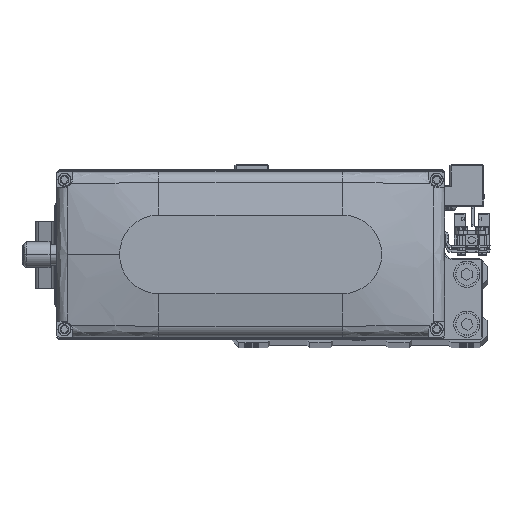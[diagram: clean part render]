
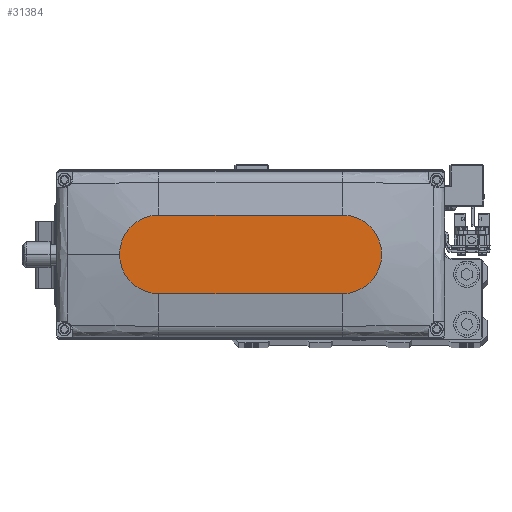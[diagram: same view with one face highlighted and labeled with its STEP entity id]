
A CAD part, top view. The second image highlights one B-rep face of the part: STEP entity #31384.
In plain terms, the highlighted planar face has unit normal (0, 0, 1).
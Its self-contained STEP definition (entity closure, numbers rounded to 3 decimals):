
#31 = CARTESIAN_POINT ( 'NONE',  ( -35., -15., 35. ) ) ;
#3073 = VERTEX_POINT ( 'NONE', #33988 ) ;
#3380 = VERTEX_POINT ( 'NONE', #12290 ) ;
#6007 = EDGE_CURVE ( 'NONE', #26414, #3380, #23986, .T. ) ;
#6771 = DIRECTION ( 'NONE',  ( -1., 0., 0. ) ) ;
#8518 = DIRECTION ( 'NONE',  ( 0., 0., 1. ) ) ;
#8647 = DIRECTION ( 'NONE',  ( 1., 0., 0. ) ) ;
#10123 = CARTESIAN_POINT ( 'NONE',  ( -35., 0., 35. ) ) ;
#11656 = DIRECTION ( 'NONE',  ( 0., 0., 1. ) ) ;
#11941 = FACE_OUTER_BOUND ( 'NONE', #13281, .T. ) ;
#11972 = ORIENTED_EDGE ( 'NONE', *, *, #37590, .T. ) ;
#12290 = CARTESIAN_POINT ( 'NONE',  ( -35., 15., 35. ) ) ;
#12870 = DIRECTION ( 'NONE',  ( 1., 0., 0. ) ) ;
#13281 = EDGE_LOOP ( 'NONE', ( #31055, #19136, #42980, #17587, #11972 ) ) ;
#15029 = VECTOR ( 'NONE', #6771, 1000. ) ;
#15269 = AXIS2_PLACEMENT_3D ( 'NONE', #30021, #43818, #12870 ) ;
#15300 = VECTOR ( 'NONE', #8647, 1000. ) ;
#17587 = ORIENTED_EDGE ( 'NONE', *, *, #36851, .T. ) ;
#18446 = AXIS2_PLACEMENT_3D ( 'NONE', #10123, #23915, #37681 ) ;
#19136 = ORIENTED_EDGE ( 'NONE', *, *, #24575, .T. ) ;
#20274 = CARTESIAN_POINT ( 'NONE',  ( 35., 15., 35. ) ) ;
#21113 = EDGE_CURVE ( 'NONE', #30232, #3073, #25838, .T. ) ;
#21567 = VERTEX_POINT ( 'NONE', #36158 ) ;
#22319 = DIRECTION ( 'NONE',  ( 1., 0., 0. ) ) ;
#23915 = DIRECTION ( 'NONE',  ( 0., 0., 1. ) ) ;
#23986 = LINE ( 'NONE', #37739, #15029 ) ;
#24575 = EDGE_CURVE ( 'NONE', #3380, #30232, #37918, .T. ) ;
#25438 = DIRECTION ( 'NONE',  ( 1., 0., 0. ) ) ;
#25694 = AXIS2_PLACEMENT_3D ( 'NONE', #39485, #8518, #22319 ) ;
#25719 = PLANE ( 'NONE',  #25694 ) ;
#25838 = LINE ( 'NONE', #39608, #15300 ) ;
#26039 = CIRCLE ( 'NONE', #31783, 15. ) ;
#26414 = VERTEX_POINT ( 'NONE', #20274 ) ;
#30021 = CARTESIAN_POINT ( 'NONE',  ( 35., 0., 35. ) ) ;
#30232 = VERTEX_POINT ( 'NONE', #31 ) ;
#31055 = ORIENTED_EDGE ( 'NONE', *, *, #6007, .T. ) ;
#31384 = ADVANCED_FACE ( 'NONE', ( #11941 ), #25719, .T. ) ;
#31783 = AXIS2_PLACEMENT_3D ( 'NONE', #42594, #11656, #25438 ) ;
#33988 = CARTESIAN_POINT ( 'NONE',  ( 35., -15., 35. ) ) ;
#34713 = CIRCLE ( 'NONE', #15269, 15. ) ;
#36158 = CARTESIAN_POINT ( 'NONE',  ( 50., 0., 35. ) ) ;
#36851 = EDGE_CURVE ( 'NONE', #3073, #21567, #34713, .T. ) ;
#37590 = EDGE_CURVE ( 'NONE', #21567, #26414, #26039, .T. ) ;
#37681 = DIRECTION ( 'NONE',  ( 1., 0., 0. ) ) ;
#37739 = CARTESIAN_POINT ( 'NONE',  ( -35., 15., 35. ) ) ;
#37918 = CIRCLE ( 'NONE', #18446, 15. ) ;
#39485 = CARTESIAN_POINT ( 'NONE',  ( 0., 0., 35. ) ) ;
#39608 = CARTESIAN_POINT ( 'NONE',  ( -35., -15., 35. ) ) ;
#42594 = CARTESIAN_POINT ( 'NONE',  ( 35., 0., 35. ) ) ;
#42980 = ORIENTED_EDGE ( 'NONE', *, *, #21113, .T. ) ;
#43818 = DIRECTION ( 'NONE',  ( 0., 0., 1. ) ) ;
